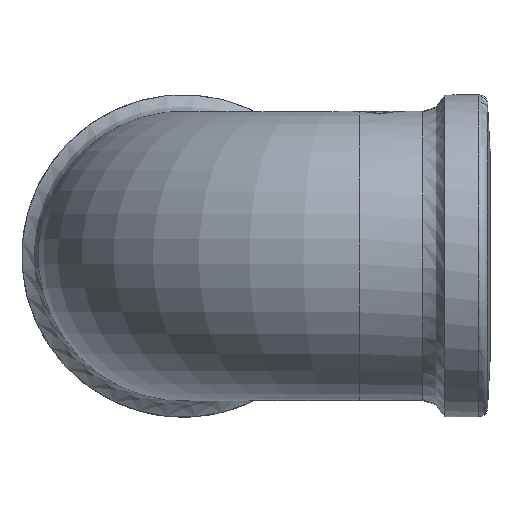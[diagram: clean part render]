
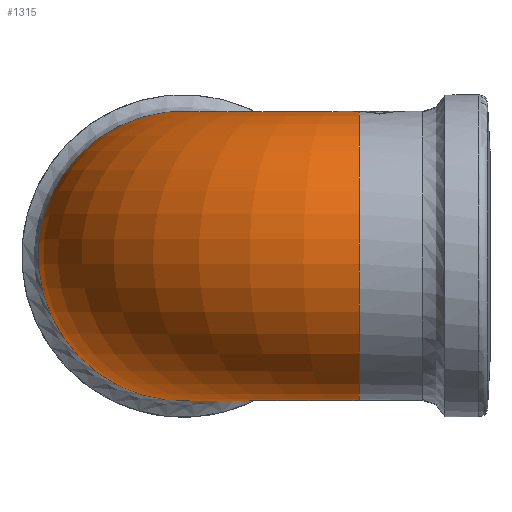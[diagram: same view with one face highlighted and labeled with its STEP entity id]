
A CAD part, left-side view. The second image highlights one B-rep face of the part: STEP entity #1315.
In plain terms, the highlighted toroidal (fillet/blend) face has major radius 19.09 mm and minor radius 15.7 mm.
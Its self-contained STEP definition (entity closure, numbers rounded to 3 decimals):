
#299=CARTESIAN_POINT('',(1.165,14.173,15.657));
#300=VERTEX_POINT('',#299);
#310=CARTESIAN_POINT('',(0.032,15.432,15.7));
#311=VERTEX_POINT('',#310);
#312=CARTESIAN_POINT('',(0.032,15.432,15.7));
#313=CARTESIAN_POINT('',(0.178,15.27,15.7));
#314=CARTESIAN_POINT('',(0.328,15.103,15.698));
#315=CARTESIAN_POINT('',(0.481,14.933,15.693));
#316=CARTESIAN_POINT('',(0.704,14.685,15.686));
#317=CARTESIAN_POINT('',(0.933,14.43,15.674));
#318=CARTESIAN_POINT('',(1.165,14.173,15.657));
#319=B_SPLINE_CURVE_WITH_KNOTS('',3,(#312,#313,#314,#315,#316,#317,#318),.UNSPECIFIED.,.F.,.U.,(4,3,4),(14.075,14.14,14.235),.UNSPECIFIED.);
#320=EDGE_CURVE('',#311,#300,#319,.T.);
#394=CARTESIAN_POINT('',(-1.102,14.173,15.661));
#395=VERTEX_POINT('',#394);
#396=CARTESIAN_POINT('',(-1.102,14.173,15.661));
#397=CARTESIAN_POINT('',(-0.715,14.603,15.689));
#398=CARTESIAN_POINT('',(-0.335,15.025,15.7));
#399=CARTESIAN_POINT('',(0.032,15.432,15.7));
#400=B_SPLINE_CURVE_WITH_KNOTS('',3,(#396,#397,#398,#399),.UNSPECIFIED.,.F.,.U.,(4,4),(13.753,13.917),.UNSPECIFIED.);
#401=EDGE_CURVE('',#395,#311,#400,.T.);
#1011=CARTESIAN_POINT('',(14.883,14.173,-5.0));
#1012=VERTEX_POINT('',#1011);
#1013=CARTESIAN_POINT('',(0.0,14.173,0.0));
#1014=DIRECTION('',(0.0,-1.0,0.0));
#1015=DIRECTION('',(1.0,0.0,0.0));
#1016=AXIS2_PLACEMENT_3D('',#1013,#1014,#1015);
#1017=CIRCLE('',#1016,15.7);
#1018=EDGE_CURVE('',#395,#1012,#1017,.T.);
#1037=CARTESIAN_POINT('',(14.883,14.173,5.0));
#1038=VERTEX_POINT('',#1037);
#1045=CARTESIAN_POINT('',(0.0,14.173,0.0));
#1046=DIRECTION('',(0.0,-1.0,0.0));
#1047=DIRECTION('',(1.0,0.0,0.0));
#1048=AXIS2_PLACEMENT_3D('',#1045,#1046,#1047);
#1049=CIRCLE('',#1048,15.7);
#1050=EDGE_CURVE('',#1038,#300,#1049,.T.);
#1100=CARTESIAN_POINT('',(19.089,18.38,5.0));
#1101=VERTEX_POINT('',#1100);
#1108=CARTESIAN_POINT('',(19.089,14.173,5.0));
#1109=DIRECTION('',(0.0,0.0,-1.0));
#1110=DIRECTION('',(-1.0,0.0,0.0));
#1111=AXIS2_PLACEMENT_3D('',#1108,#1109,#1110);
#1112=CIRCLE('',#1111,4.207);
#1113=EDGE_CURVE('',#1038,#1101,#1112,.T.);
#1247=CARTESIAN_POINT('',(19.089,18.38,-5.0));
#1248=VERTEX_POINT('',#1247);
#1249=CARTESIAN_POINT('',(19.089,14.173,-5.0));
#1250=DIRECTION('',(0.0,0.0,1.0));
#1251=DIRECTION('',(-1.0,0.0,0.0));
#1252=AXIS2_PLACEMENT_3D('',#1249,#1250,#1251);
#1253=CIRCLE('',#1252,4.207);
#1254=EDGE_CURVE('',#1248,#1012,#1253,.T.);
#1295=CARTESIAN_POINT('',(19.089,14.173,0.0));
#1296=DIRECTION('',(0.0,0.0,-1.0));
#1297=DIRECTION('',(-1.0,0.0,0.0));
#1298=AXIS2_PLACEMENT_3D('',#1295,#1296,#1297);
#1299=TOROIDAL_SURFACE('',#1298,19.089,15.7);
#1300=ORIENTED_EDGE('',*,*,#320,.T.);
#1301=ORIENTED_EDGE('',*,*,#1050,.F.);
#1302=ORIENTED_EDGE('',*,*,#1113,.T.);
#1303=CARTESIAN_POINT('',(19.089,33.262,0.0));
#1304=DIRECTION('',(-1.0,0.0,0.0));
#1305=DIRECTION('',(0.0,-1.0,0.0));
#1306=AXIS2_PLACEMENT_3D('',#1303,#1304,#1305);
#1307=CIRCLE('',#1306,15.7);
#1308=EDGE_CURVE('',#1101,#1248,#1307,.T.);
#1309=ORIENTED_EDGE('',*,*,#1308,.T.);
#1310=ORIENTED_EDGE('',*,*,#1254,.T.);
#1311=ORIENTED_EDGE('',*,*,#1018,.F.);
#1312=ORIENTED_EDGE('',*,*,#401,.T.);
#1313=EDGE_LOOP('',(#1300,#1301,#1302,#1309,#1310,#1311,#1312));
#1314=FACE_OUTER_BOUND('',#1313,.T.);
#1315=ADVANCED_FACE('',(#1314),#1299,.T.);
